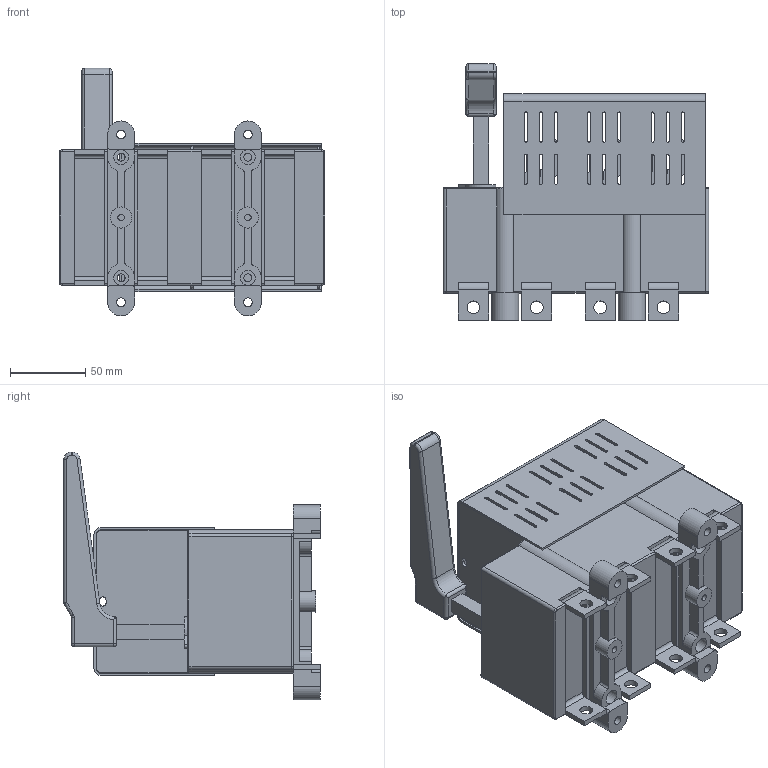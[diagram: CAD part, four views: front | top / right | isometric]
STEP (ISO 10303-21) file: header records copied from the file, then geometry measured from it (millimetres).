
FILE_DESCRIPTION(/* description */ (''),/* implementation_level */ '2;1');
FILE_NAME(/* name */ 'RAB 00 P3 NC-R.stp',/* time_stamp */ '2021-08-19T11:44:19+02:00',/* author */ (''),/* organization */ (''),/* preprocessor_version */ 'ST-DEVELOPER v18.1',/* originating_system */ 'SIEMENS PLM Software NX 1965',/* authorisation */ '');
FILE_SCHEMA (('AUTOMOTIVE_DESIGN { 1 0 10303 214 3 1 1 1 }'));
Length unit declared in the file: millimetre
Products named in the file (1): RAB 00 P3 NC-R_stp
Bounding box: 176 x 170 x 164.18 mm (x, y, z)
Volume: 1279491 mm3; surface area: 234185.6 mm2
Topology: 1 solids, 1 shells, 942 faces, 2641 edges, 1712 vertices
Faces by surface type: plane 574, cylinder 342, torus 15, sphere 6, bspline 5
Full cylindrical faces by diameter (mm): 2.7 x4, 4.3 x2, 5 x6, 5.3 x4, 5.8 x4, 8.5 x8, 10 x8, 14 x2
Entity records: 30192 total; most frequent: CARTESIAN_POINT 5418, ORIENTED_EDGE 5138, DIRECTION 5117, EDGE_CURVE 2569, LINE 1835, VECTOR 1835, VERTEX_POINT 1684, AXIS2_PLACEMENT_3D 1641
